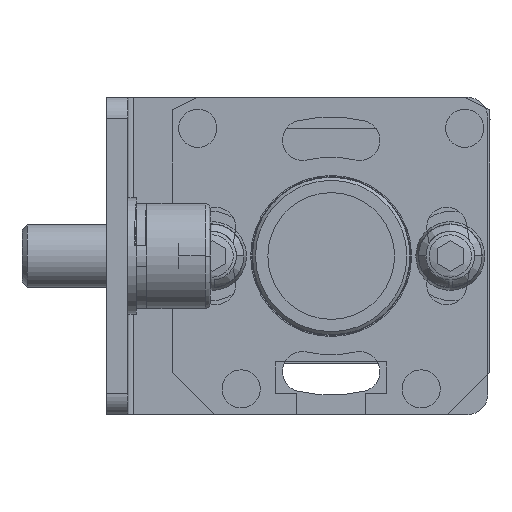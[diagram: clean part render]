
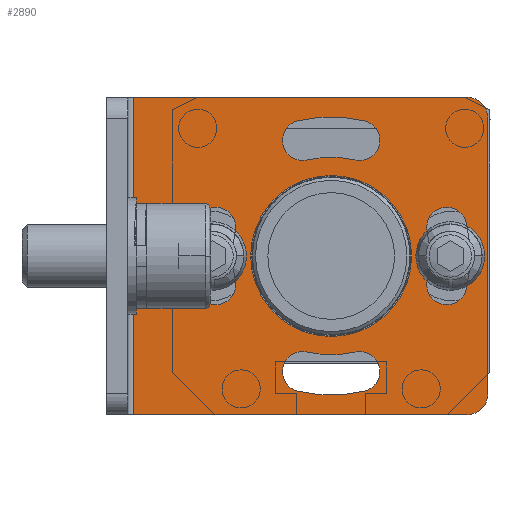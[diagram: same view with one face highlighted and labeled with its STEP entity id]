
A CAD part, front view. The second image highlights one B-rep face of the part: STEP entity #2890.
In plain terms, the highlighted planar face has unit normal (0, -1, 0).
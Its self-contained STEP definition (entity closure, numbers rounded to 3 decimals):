
#692=LINE('',#40684,#1452);
#697=LINE('',#40696,#1457);
#703=LINE('',#40712,#1463);
#707=LINE('',#40736,#1467);
#1452=VECTOR('',#13263,1.);
#1457=VECTOR('',#13272,1.);
#1463=VECTOR('',#13290,1.);
#1467=VECTOR('',#13320,1.);
#1962=PLANE('',#11082);
#2299=FACE_BOUND('',#4309,.T.);
#2300=FACE_BOUND('',#4310,.T.);
#2301=FACE_BOUND('',#4311,.T.);
#2302=FACE_BOUND('',#4312,.T.);
#2303=FACE_BOUND('',#4313,.T.);
#2304=FACE_BOUND('',#4314,.T.);
#2890=ADVANCED_FACE('',(#2299,#2300,#2301,#2302,#2303,#2304),#1962,.T.);
#4309=EDGE_LOOP('',(#6781,#6782,#6783,#6784));
#4310=EDGE_LOOP('',(#6785,#6786,#6787,#6788));
#4311=EDGE_LOOP('',(#6789,#6790,#6791,#6792));
#4312=EDGE_LOOP('',(#6793));
#4313=EDGE_LOOP('',(#6794,#6795,#6796,#6797));
#4314=EDGE_LOOP('',(#6798,#6799,#6800,#6801,#6802,#6803));
#6781=ORIENTED_EDGE('',*,*,#9603,.T.);
#6782=ORIENTED_EDGE('',*,*,#9604,.T.);
#6783=ORIENTED_EDGE('',*,*,#9542,.T.);
#6784=ORIENTED_EDGE('',*,*,#9605,.T.);
#6785=ORIENTED_EDGE('',*,*,#9606,.T.);
#6786=ORIENTED_EDGE('',*,*,#9546,.T.);
#6787=ORIENTED_EDGE('',*,*,#9607,.T.);
#6788=ORIENTED_EDGE('',*,*,#9550,.T.);
#6789=ORIENTED_EDGE('',*,*,#9608,.T.);
#6790=ORIENTED_EDGE('',*,*,#9554,.T.);
#6791=ORIENTED_EDGE('',*,*,#9609,.T.);
#6792=ORIENTED_EDGE('',*,*,#9558,.T.);
#6793=ORIENTED_EDGE('',*,*,#9563,.T.);
#6794=ORIENTED_EDGE('',*,*,#9610,.T.);
#6795=ORIENTED_EDGE('',*,*,#9611,.T.);
#6796=ORIENTED_EDGE('',*,*,#9612,.T.);
#6797=ORIENTED_EDGE('',*,*,#9564,.T.);
#6798=ORIENTED_EDGE('',*,*,#9613,.T.);
#6799=ORIENTED_EDGE('',*,*,#9614,.T.);
#6800=ORIENTED_EDGE('',*,*,#9598,.F.);
#6801=ORIENTED_EDGE('',*,*,#9584,.T.);
#6802=ORIENTED_EDGE('',*,*,#9590,.F.);
#6803=ORIENTED_EDGE('',*,*,#9615,.T.);
#8262=VERTEX_POINT('',#40594);
#8263=VERTEX_POINT('',#40595);
#8266=VERTEX_POINT('',#40603);
#8267=VERTEX_POINT('',#40604);
#8270=VERTEX_POINT('',#40612);
#8271=VERTEX_POINT('',#40613);
#8274=VERTEX_POINT('',#40621);
#8275=VERTEX_POINT('',#40622);
#8278=VERTEX_POINT('',#40630);
#8279=VERTEX_POINT('',#40631);
#8283=VERTEX_POINT('',#40641);
#8284=VERTEX_POINT('',#40644);
#8285=VERTEX_POINT('',#40645);
#8298=VERTEX_POINT('',#40681);
#8299=VERTEX_POINT('',#40683);
#8304=VERTEX_POINT('',#40695);
#8309=VERTEX_POINT('',#40713);
#8312=VERTEX_POINT('',#40723);
#8313=VERTEX_POINT('',#40724);
#8314=VERTEX_POINT('',#40732);
#8315=VERTEX_POINT('',#40734);
#8316=VERTEX_POINT('',#40737);
#8317=VERTEX_POINT('',#40738);
#9542=EDGE_CURVE('',#8262,#8263,#10244,.T.);
#9546=EDGE_CURVE('',#8266,#8267,#10246,.T.);
#9550=EDGE_CURVE('',#8270,#8271,#10248,.T.);
#9554=EDGE_CURVE('',#8274,#8275,#10250,.T.);
#9558=EDGE_CURVE('',#8278,#8279,#10252,.T.);
#9563=EDGE_CURVE('',#8283,#8283,#10255,.T.);
#9564=EDGE_CURVE('',#8284,#8285,#10256,.T.);
#9584=EDGE_CURVE('',#8298,#8299,#692,.T.);
#9590=EDGE_CURVE('',#8304,#8299,#697,.T.);
#9598=EDGE_CURVE('',#8298,#8309,#703,.T.);
#9603=EDGE_CURVE('',#8312,#8313,#10268,.T.);
#9604=EDGE_CURVE('',#8313,#8262,#10269,.T.);
#9605=EDGE_CURVE('',#8263,#8312,#10270,.T.);
#9606=EDGE_CURVE('',#8271,#8266,#10271,.T.);
#9607=EDGE_CURVE('',#8267,#8270,#10272,.T.);
#9608=EDGE_CURVE('',#8279,#8274,#10273,.T.);
#9609=EDGE_CURVE('',#8275,#8278,#10274,.T.);
#9610=EDGE_CURVE('',#8285,#8314,#10275,.T.);
#9611=EDGE_CURVE('',#8314,#8315,#10276,.T.);
#9612=EDGE_CURVE('',#8315,#8284,#10277,.T.);
#9613=EDGE_CURVE('',#8316,#8317,#707,.T.);
#9614=EDGE_CURVE('',#8317,#8309,#10278,.T.);
#9615=EDGE_CURVE('',#8304,#8316,#10279,.T.);
#10244=CIRCLE('',#11028,1.9);
#10246=CIRCLE('',#11031,13.15);
#10248=CIRCLE('',#11034,9.35);
#10250=CIRCLE('',#11037,1.9);
#10252=CIRCLE('',#11040,1.9);
#10255=CIRCLE('',#11044,7.6);
#10256=CIRCLE('',#11046,1.9);
#10268=CIRCLE('',#11070,1.9);
#10269=CIRCLE('',#11071,13.15);
#10270=CIRCLE('',#11072,9.35);
#10271=CIRCLE('',#11073,1.9);
#10272=CIRCLE('',#11074,1.9);
#10273=CIRCLE('',#11075,13.15);
#10274=CIRCLE('',#11076,9.35);
#10275=CIRCLE('',#11077,13.15);
#10276=CIRCLE('',#11078,1.9);
#10277=CIRCLE('',#11079,9.35);
#10278=CIRCLE('',#11080,2.);
#10279=CIRCLE('',#11081,2.);
#11028=AXIS2_PLACEMENT_3D('',#40593,#13179,#13180);
#11031=AXIS2_PLACEMENT_3D('',#40602,#13187,#13188);
#11034=AXIS2_PLACEMENT_3D('',#40611,#13195,#13196);
#11037=AXIS2_PLACEMENT_3D('',#40620,#13203,#13204);
#11040=AXIS2_PLACEMENT_3D('',#40629,#13211,#13212);
#11044=AXIS2_PLACEMENT_3D('',#40640,#13221,#13222);
#11046=AXIS2_PLACEMENT_3D('',#40643,#13225,#13226);
#11070=AXIS2_PLACEMENT_3D('',#40722,#13300,#13301);
#11071=AXIS2_PLACEMENT_3D('',#40725,#13302,#13303);
#11072=AXIS2_PLACEMENT_3D('',#40726,#13304,#13305);
#11073=AXIS2_PLACEMENT_3D('',#40727,#13306,#13307);
#11074=AXIS2_PLACEMENT_3D('',#40728,#13308,#13309);
#11075=AXIS2_PLACEMENT_3D('',#40729,#13310,#13311);
#11076=AXIS2_PLACEMENT_3D('',#40730,#13312,#13313);
#11077=AXIS2_PLACEMENT_3D('',#40731,#13314,#13315);
#11078=AXIS2_PLACEMENT_3D('',#40733,#13316,#13317);
#11079=AXIS2_PLACEMENT_3D('',#40735,#13318,#13319);
#11080=AXIS2_PLACEMENT_3D('',#40739,#13321,#13322);
#11081=AXIS2_PLACEMENT_3D('',#40740,#13323,#13324);
#11082=AXIS2_PLACEMENT_3D('',#40741,#13325,#13326);
#13179=DIRECTION('',(0.,1.,0.));
#13180=DIRECTION('',(0.,0.,1.));
#13187=DIRECTION('',(0.,1.,0.));
#13188=DIRECTION('',(0.,0.,1.));
#13195=DIRECTION('',(0.,-1.,0.));
#13196=DIRECTION('',(0.,0.,1.));
#13203=DIRECTION('',(0.,1.,0.));
#13204=DIRECTION('',(0.,0.,1.));
#13211=DIRECTION('',(0.,1.,0.));
#13212=DIRECTION('',(0.,0.,1.));
#13221=DIRECTION('',(0.,1.,0.));
#13222=DIRECTION('',(0.,0.,1.));
#13225=DIRECTION('',(0.,1.,0.));
#13226=DIRECTION('',(0.,0.,1.));
#13263=DIRECTION('',(0.,0.,-1.));
#13272=DIRECTION('',(-1.,0.,0.));
#13290=DIRECTION('',(1.,0.,0.));
#13300=DIRECTION('',(0.,1.,0.));
#13301=DIRECTION('',(0.,0.,1.));
#13302=DIRECTION('',(0.,1.,0.));
#13303=DIRECTION('',(0.,0.,1.));
#13304=DIRECTION('',(0.,-1.,0.));
#13305=DIRECTION('',(0.,0.,1.));
#13306=DIRECTION('',(0.,1.,0.));
#13307=DIRECTION('',(0.,0.,1.));
#13308=DIRECTION('',(0.,1.,0.));
#13309=DIRECTION('',(0.,0.,1.));
#13310=DIRECTION('',(0.,1.,0.));
#13311=DIRECTION('',(0.,0.,1.));
#13312=DIRECTION('',(0.,-1.,0.));
#13313=DIRECTION('',(0.,0.,1.));
#13314=DIRECTION('',(0.,1.,0.));
#13315=DIRECTION('',(0.,0.,1.));
#13316=DIRECTION('',(0.,1.,0.));
#13317=DIRECTION('',(0.,0.,1.));
#13318=DIRECTION('',(0.,-1.,0.));
#13319=DIRECTION('',(0.,0.,1.));
#13320=DIRECTION('',(0.,0.,1.));
#13321=DIRECTION('',(0.,-1.,0.));
#13322=DIRECTION('',(0.,0.,-1.));
#13323=DIRECTION('',(0.,-1.,0.));
#13324=DIRECTION('',(0.,0.,1.));
#13325=DIRECTION('',(0.,-1.,0.));
#13326=DIRECTION('',(1.,0.,0.));
#40593=CARTESIAN_POINT('',(-110.921,-368.,2.851));
#40594=CARTESIAN_POINT('',(-112.765,-368.,3.307));
#40595=CARTESIAN_POINT('',(-109.077,-368.,2.395));
#40602=CARTESIAN_POINT('',(-100.,-368.,0.15));
#40603=CARTESIAN_POINT('',(-103.157,-368.,12.915));
#40604=CARTESIAN_POINT('',(-96.843,-368.,12.915));
#40611=CARTESIAN_POINT('',(-100.,-368.,0.15));
#40612=CARTESIAN_POINT('',(-97.755,-368.,9.227));
#40613=CARTESIAN_POINT('',(-102.245,-368.,9.227));
#40620=CARTESIAN_POINT('',(-102.701,-368.,-10.771));
#40621=CARTESIAN_POINT('',(-103.157,-368.,-12.615));
#40622=CARTESIAN_POINT('',(-102.245,-368.,-8.927));
#40629=CARTESIAN_POINT('',(-97.299,-368.,-10.771));
#40630=CARTESIAN_POINT('',(-97.755,-368.,-8.927));
#40631=CARTESIAN_POINT('',(-96.843,-368.,-12.615));
#40640=CARTESIAN_POINT('',(-100.,-368.,0.15));
#40641=CARTESIAN_POINT('',(-100.,-368.,7.75));
#40643=CARTESIAN_POINT('',(-89.079,-368.,2.851));
#40644=CARTESIAN_POINT('',(-90.923,-368.,2.395));
#40645=CARTESIAN_POINT('',(-87.235,-368.,3.307));
#40681=CARTESIAN_POINT('',(-118.7,-368.,15.15));
#40683=CARTESIAN_POINT('',(-118.7,-368.,-14.85));
#40684=CARTESIAN_POINT('',(-118.7,-368.,15.15));
#40695=CARTESIAN_POINT('',(-87.2,-368.,-14.85));
#40696=CARTESIAN_POINT('',(-118.7,-368.,-14.85));
#40712=CARTESIAN_POINT('',(-118.7,-368.,15.15));
#40713=CARTESIAN_POINT('',(-87.2,-368.,15.15));
#40722=CARTESIAN_POINT('',(-110.921,-368.,-2.551));
#40723=CARTESIAN_POINT('',(-109.077,-368.,-2.095));
#40724=CARTESIAN_POINT('',(-112.765,-368.,-3.007));
#40725=CARTESIAN_POINT('',(-100.,-368.,0.15));
#40726=CARTESIAN_POINT('',(-100.,-368.,0.15));
#40727=CARTESIAN_POINT('',(-102.701,-368.,11.071));
#40728=CARTESIAN_POINT('',(-97.299,-368.,11.071));
#40729=CARTESIAN_POINT('',(-100.,-368.,0.15));
#40730=CARTESIAN_POINT('',(-100.,-368.,0.15));
#40731=CARTESIAN_POINT('',(-100.,-368.,0.15));
#40732=CARTESIAN_POINT('',(-87.235,-368.,-3.007));
#40733=CARTESIAN_POINT('',(-89.079,-368.,-2.551));
#40734=CARTESIAN_POINT('',(-90.923,-368.,-2.095));
#40735=CARTESIAN_POINT('',(-100.,-368.,0.15));
#40736=CARTESIAN_POINT('',(-85.2,-368.,15.15));
#40737=CARTESIAN_POINT('',(-85.2,-368.,-12.85));
#40738=CARTESIAN_POINT('',(-85.2,-368.,13.15));
#40739=CARTESIAN_POINT('',(-87.2,-368.,13.15));
#40740=CARTESIAN_POINT('',(-87.2,-368.,-12.85));
#40741=CARTESIAN_POINT('',(-85.2,-368.,15.15));
